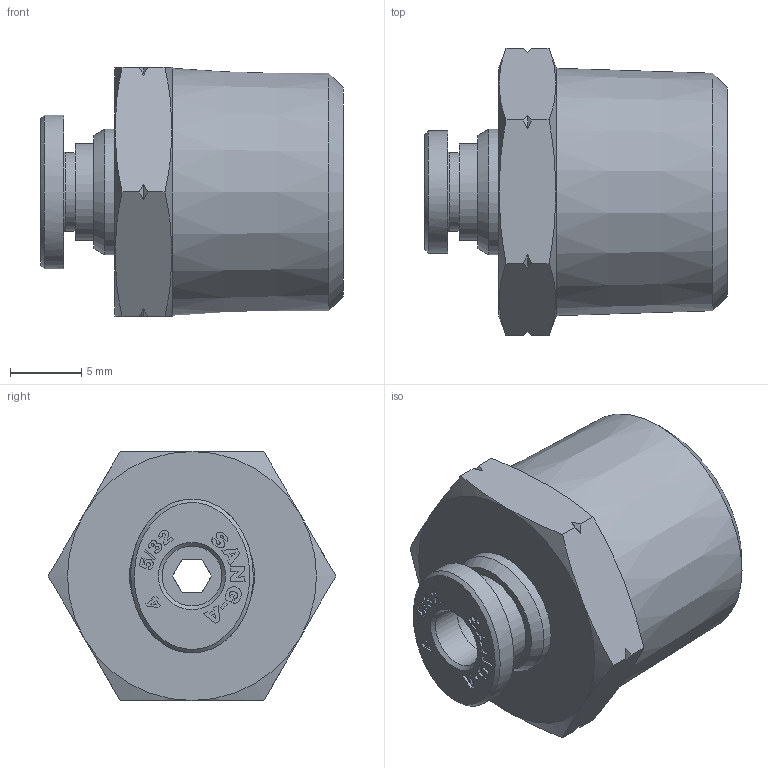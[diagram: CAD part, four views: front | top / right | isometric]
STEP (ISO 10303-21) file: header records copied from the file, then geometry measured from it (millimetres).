
FILE_DESCRIPTION((''),'2;1');
FILE_NAME('C:\Users\user0117\Desktop\김진일\G-FITTING INCH\5-32\카탈로그\G-FITTING INCH (STEP)\GPC 5_32-N03U.stp','2020-04-13T11:09:09',('user0117'),(''),'Autodesk Inventor 2013','Autodesk Inventor 2013','');
FILE_SCHEMA(('AUTOMOTIVE_DESIGN { 1 0 10303 214 1 1 1 1 }'));
Length unit declared in the file: millimetre
Products named in the file (5): GPC 5_32-N03U; GPC BODY 5_32-N03U(BRASS); G-COLLAR 5-32C; COLLAR G04C; SLEEVE G04
Assembly tree (4 placements, depth 3):
  GPC 5_32-N03U
    GPC BODY 5_32-N03U(BRASS)
    G-COLLAR 5-32C
      COLLAR G04C
      SLEEVE G04
Bounding box: 21.2 x 20.16 x 17.46 mm (x, y, z)
Volume: 3602 mm3; surface area: 1893.3 mm2
Topology: 3 solids, 3 shells, 209 faces, 546 edges, 361 vertices
Faces by surface type: plane 112, bspline 59, cone 31, cylinder 7
Full cylindrical faces by diameter (mm): 4.2 x3, 5.5 x1, 6.8 x1, 8.8 x1, 9 x1
Entity records: 6887 total; most frequent: CARTESIAN_POINT 2227, ORIENTED_EDGE 1052, DIRECTION 707, EDGE_CURVE 526, VERTEX_POINT 356, VECTOR 309, LINE 309, EDGE_LOOP 248
